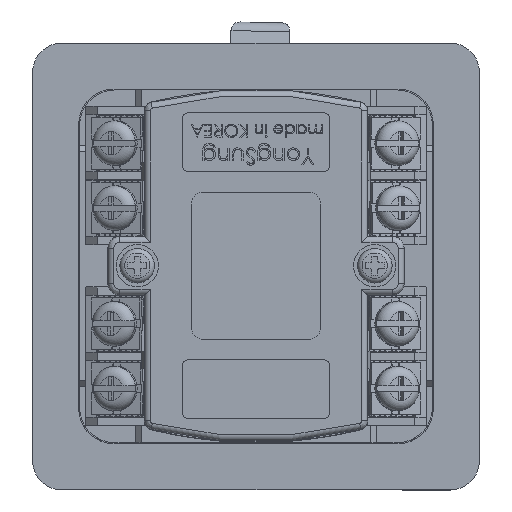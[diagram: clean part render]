
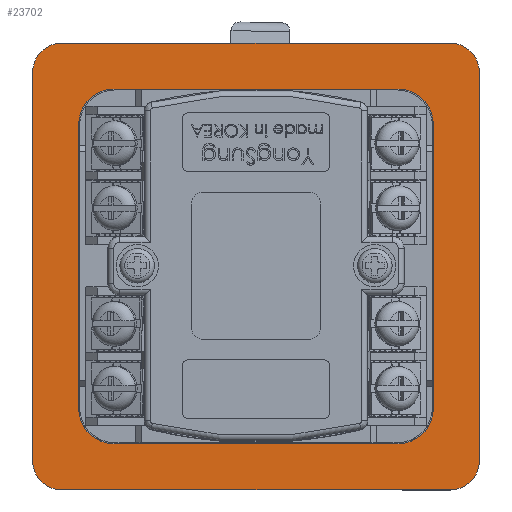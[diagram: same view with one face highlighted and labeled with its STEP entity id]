
A CAD part, top view. The second image highlights one B-rep face of the part: STEP entity #23702.
In plain terms, the highlighted planar face has unit normal (0, 0, 1) as drawn and (0, 0, -1) by its records, which use the part's own axes.
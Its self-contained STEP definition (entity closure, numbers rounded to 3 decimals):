
#1437=LINE('',#33355,#3807);
#1440=LINE('',#33361,#3810);
#1441=LINE('',#33365,#3811);
#1442=LINE('',#33369,#3812);
#1443=LINE('',#33373,#3813);
#1444=LINE('',#33375,#3814);
#1445=LINE('',#33378,#3815);
#3807=VECTOR('',#27537,66.);
#3810=VECTOR('',#27542,66.);
#3811=VECTOR('',#27545,66.);
#3812=VECTOR('',#27548,66.);
#3813=VECTOR('',#27551,6.5);
#3814=VECTOR('',#27552,7.23);
#3815=VECTOR('',#27555,7.23);
#6154=FACE_BOUND('',#7885,.T.);
#6155=FACE_BOUND('',#7886,.T.);
#6156=FACE_BOUND('',#7887,.T.);
#6157=FACE_BOUND('',#7888,.T.);
#6158=FACE_BOUND('',#7889,.T.);
#6159=FACE_BOUND('',#7890,.T.);
#6160=FACE_BOUND('',#7891,.T.);
#6505=FACE_OUTER_BOUND('',#7884,.T.);
#7884=EDGE_LOOP('',(#16446,#16447,#16448,#16449,#16450,#16451,#16452,#16453));
#7885=EDGE_LOOP('',(#16454,#16455,#16456,#16457));
#7886=EDGE_LOOP('',(#16458));
#7887=EDGE_LOOP('',(#16459));
#7888=EDGE_LOOP('',(#16460));
#7889=EDGE_LOOP('',(#16461));
#7890=EDGE_LOOP('',(#16462));
#7891=EDGE_LOOP('',(#16463));
#9360=CIRCLE('',#25307,5.);
#9361=CIRCLE('',#25310,5.);
#9362=CIRCLE('',#25311,5.);
#9363=CIRCLE('',#25312,5.);
#9364=CIRCLE('',#25313,11.25);
#9365=CIRCLE('',#25314,2.25);
#9366=CIRCLE('',#25315,2.25);
#9367=CIRCLE('',#25316,2.25);
#9368=CIRCLE('',#25317,2.25);
#9369=CIRCLE('',#25318,1.75);
#9370=CIRCLE('',#25319,1.75);
#10039=VERTEX_POINT('',#33348);
#10040=VERTEX_POINT('',#33350);
#10041=VERTEX_POINT('',#33354);
#10043=VERTEX_POINT('',#33360);
#10044=VERTEX_POINT('',#33362);
#10045=VERTEX_POINT('',#33364);
#10046=VERTEX_POINT('',#33366);
#10047=VERTEX_POINT('',#33368);
#10048=VERTEX_POINT('',#33371);
#10049=VERTEX_POINT('',#33372);
#10050=VERTEX_POINT('',#33374);
#10051=VERTEX_POINT('',#33376);
#10052=VERTEX_POINT('',#33379);
#10053=VERTEX_POINT('',#33381);
#10054=VERTEX_POINT('',#33383);
#10055=VERTEX_POINT('',#33385);
#10056=VERTEX_POINT('',#33387);
#10057=VERTEX_POINT('',#33389);
#12531=EDGE_CURVE('',#10039,#10040,#9360,.T.);
#12533=EDGE_CURVE('',#10041,#10040,#1437,.T.);
#12536=EDGE_CURVE('',#10039,#10043,#1440,.T.);
#12537=EDGE_CURVE('',#10044,#10043,#9361,.T.);
#12538=EDGE_CURVE('',#10044,#10045,#1441,.T.);
#12539=EDGE_CURVE('',#10046,#10045,#9362,.T.);
#12540=EDGE_CURVE('',#10046,#10047,#1442,.T.);
#12541=EDGE_CURVE('',#10041,#10047,#9363,.T.);
#12542=EDGE_CURVE('',#10048,#10049,#1443,.T.);
#12543=EDGE_CURVE('',#10049,#10050,#1444,.T.);
#12544=EDGE_CURVE('',#10050,#10051,#9364,.T.);
#12545=EDGE_CURVE('',#10051,#10048,#1445,.T.);
#12546=EDGE_CURVE('',#10052,#10052,#9365,.T.);
#12547=EDGE_CURVE('',#10053,#10053,#9366,.T.);
#12548=EDGE_CURVE('',#10054,#10054,#9367,.T.);
#12549=EDGE_CURVE('',#10055,#10055,#9368,.T.);
#12550=EDGE_CURVE('',#10056,#10056,#9369,.T.);
#12551=EDGE_CURVE('',#10057,#10057,#9370,.T.);
#16446=ORIENTED_EDGE('',*,*,#12531,.F.);
#16447=ORIENTED_EDGE('',*,*,#12536,.T.);
#16448=ORIENTED_EDGE('',*,*,#12537,.F.);
#16449=ORIENTED_EDGE('',*,*,#12538,.T.);
#16450=ORIENTED_EDGE('',*,*,#12539,.F.);
#16451=ORIENTED_EDGE('',*,*,#12540,.T.);
#16452=ORIENTED_EDGE('',*,*,#12541,.F.);
#16453=ORIENTED_EDGE('',*,*,#12533,.T.);
#16454=ORIENTED_EDGE('',*,*,#12542,.T.);
#16455=ORIENTED_EDGE('',*,*,#12543,.T.);
#16456=ORIENTED_EDGE('',*,*,#12544,.T.);
#16457=ORIENTED_EDGE('',*,*,#12545,.T.);
#16458=ORIENTED_EDGE('',*,*,#12546,.T.);
#16459=ORIENTED_EDGE('',*,*,#12547,.T.);
#16460=ORIENTED_EDGE('',*,*,#12548,.T.);
#16461=ORIENTED_EDGE('',*,*,#12549,.T.);
#16462=ORIENTED_EDGE('',*,*,#12550,.T.);
#16463=ORIENTED_EDGE('',*,*,#12551,.T.);
#22846=PLANE('',#25309);
#23702=ADVANCED_FACE('',(#6505,#6154,#6155,#6156,#6157,#6158,#6159,#6160),
#22846,.F.);
#25307=AXIS2_PLACEMENT_3D('',#33351,#27532,#27533);
#25309=AXIS2_PLACEMENT_3D('',#33359,#27540,#27541);
#25310=AXIS2_PLACEMENT_3D('',#33363,#27543,#27544);
#25311=AXIS2_PLACEMENT_3D('',#33367,#27546,#27547);
#25312=AXIS2_PLACEMENT_3D('',#33370,#27549,#27550);
#25313=AXIS2_PLACEMENT_3D('',#33377,#27553,#27554);
#25314=AXIS2_PLACEMENT_3D('',#33380,#27556,#27557);
#25315=AXIS2_PLACEMENT_3D('',#33382,#27558,#27559);
#25316=AXIS2_PLACEMENT_3D('',#33384,#27560,#27561);
#25317=AXIS2_PLACEMENT_3D('',#33386,#27562,#27563);
#25318=AXIS2_PLACEMENT_3D('',#33388,#27564,#27565);
#25319=AXIS2_PLACEMENT_3D('',#33390,#27566,#27567);
#27532=DIRECTION('center_axis',(0.,0.,1.));
#27533=DIRECTION('ref_axis',(-0.707,-0.707,0.));
#27537=DIRECTION('',(-1.,0.,0.));
#27540=DIRECTION('center_axis',(0.,0.,1.));
#27541=DIRECTION('ref_axis',(1.,0.,0.));
#27542=DIRECTION('',(0.,1.,0.));
#27543=DIRECTION('center_axis',(0.,0.,1.));
#27544=DIRECTION('ref_axis',(-0.707,0.707,0.));
#27545=DIRECTION('',(1.,0.,0.));
#27546=DIRECTION('center_axis',(0.,0.,1.));
#27547=DIRECTION('ref_axis',(0.707,0.707,0.));
#27548=DIRECTION('',(0.,-1.,0.));
#27549=DIRECTION('center_axis',(0.,0.,1.));
#27550=DIRECTION('ref_axis',(0.707,-0.707,0.));
#27551=DIRECTION('',(1.,0.,0.));
#27552=DIRECTION('',(0.,1.,0.));
#27553=DIRECTION('center_axis',(0.,0.,1.));
#27554=DIRECTION('ref_axis',(0.289,-0.957,0.));
#27555=DIRECTION('',(0.,-1.,0.));
#27556=DIRECTION('center_axis',(0.,0.,1.));
#27557=DIRECTION('ref_axis',(-1.,0.,0.));
#27558=DIRECTION('center_axis',(0.,0.,1.));
#27559=DIRECTION('ref_axis',(-1.,0.,0.));
#27560=DIRECTION('center_axis',(0.,0.,1.));
#27561=DIRECTION('ref_axis',(-1.,0.,0.));
#27562=DIRECTION('center_axis',(0.,0.,1.));
#27563=DIRECTION('ref_axis',(-1.,0.,0.));
#27564=DIRECTION('center_axis',(0.,0.,1.));
#27565=DIRECTION('ref_axis',(-1.,0.,0.));
#27566=DIRECTION('center_axis',(0.,0.,1.));
#27567=DIRECTION('ref_axis',(-1.,0.,0.));
#33348=CARTESIAN_POINT('',(-38.,-33.,0.));
#33350=CARTESIAN_POINT('',(-33.,-38.,0.));
#33351=CARTESIAN_POINT('Origin',(-33.,-33.,0.));
#33354=CARTESIAN_POINT('',(33.,-38.,0.));
#33355=CARTESIAN_POINT('',(38.,-38.,0.));
#33359=CARTESIAN_POINT('Origin',(0.,0.,
0.));
#33360=CARTESIAN_POINT('',(-38.,33.,0.));
#33361=CARTESIAN_POINT('',(-38.,-38.,0.));
#33362=CARTESIAN_POINT('',(-33.,38.,0.));
#33363=CARTESIAN_POINT('Origin',(-33.,33.,0.));
#33364=CARTESIAN_POINT('',(33.,38.,0.));
#33365=CARTESIAN_POINT('',(-38.,38.,0.));
#33366=CARTESIAN_POINT('',(38.,33.,0.));
#33367=CARTESIAN_POINT('Origin',(33.,33.,0.));
#33368=CARTESIAN_POINT('',(38.,-33.,0.));
#33369=CARTESIAN_POINT('',(38.,38.,0.));
#33370=CARTESIAN_POINT('Origin',(33.,-33.,0.));
#33371=CARTESIAN_POINT('',(-3.25,-18.,0.));
#33372=CARTESIAN_POINT('',(3.25,-18.,0.));
#33373=CARTESIAN_POINT('',(-1.625,-18.,0.));
#33374=CARTESIAN_POINT('',(3.25,-10.77,0.));
#33375=CARTESIAN_POINT('',(3.25,-9.,0.));
#33376=CARTESIAN_POINT('',(-3.25,-10.77,0.));
#33377=CARTESIAN_POINT('Origin',(0.,0.,0.));
#33378=CARTESIAN_POINT('',(-3.25,-5.385,0.));
#33379=CARTESIAN_POINT('',(26.25,0.,0.));
#33380=CARTESIAN_POINT('Origin',(24.,0.,0.));
#33381=CARTESIAN_POINT('',(2.25,-24.,0.));
#33382=CARTESIAN_POINT('Origin',(0.,-24.,0.));
#33383=CARTESIAN_POINT('',(-21.75,0.,0.));
#33384=CARTESIAN_POINT('Origin',(-24.,0.,0.));
#33385=CARTESIAN_POINT('',(2.25,24.,0.));
#33386=CARTESIAN_POINT('Origin',(0.,24.,0.));
#33387=CARTESIAN_POINT('',(16.75,0.,0.));
#33388=CARTESIAN_POINT('Origin',(15.,0.,0.));
#33389=CARTESIAN_POINT('',(-13.25,0.,0.));
#33390=CARTESIAN_POINT('Origin',(-15.,0.,0.));
